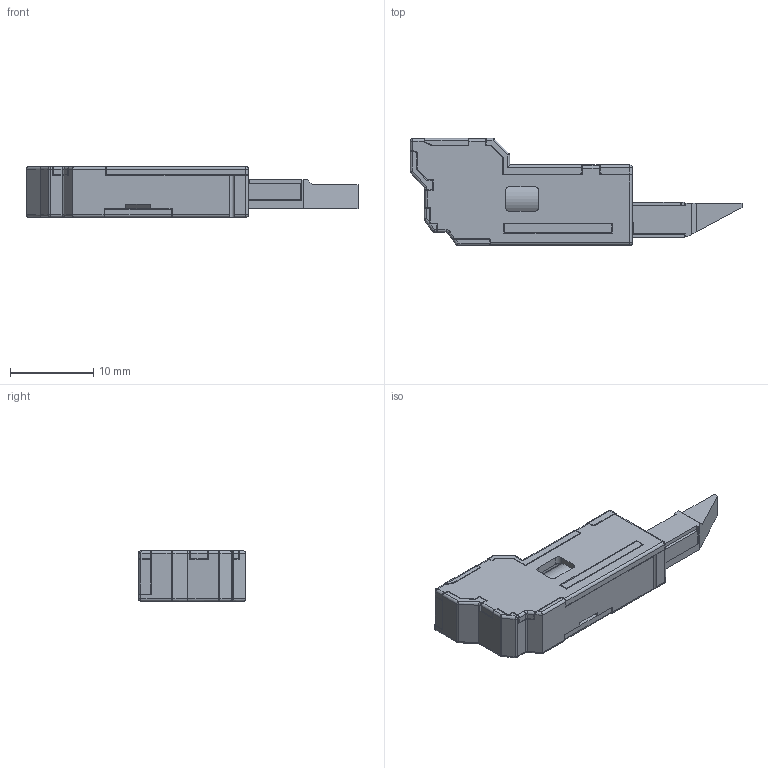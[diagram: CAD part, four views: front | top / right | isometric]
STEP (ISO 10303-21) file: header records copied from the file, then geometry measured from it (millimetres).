
FILE_DESCRIPTION(/* description */ (''),/* implementation_level */ '2;1');
FILE_NAME(/* name */ 'C:\Desktop\Ass. Portaf. Versione LED.stp',/* time_stamp */ '2015-03-20T15:36:48+01:00',/* author */ ('marco'),/* organization */ (''),/* preprocessor_version */ 'ST-DEVELOPER v15.6',/* originating_system */ 'Autodesk Inventor 2015',/* authorisation */ '');
FILE_SCHEMA (('AUTOMOTIVE_DESIGN { 1 0 10303 214 3 1 1 }'));
Length unit declared in the file: millimetre
Products named in the file (13): EF00884-1 (03.07.14) Versione LED; EF00885-1 ( 03.07.14) Versione LED; EF00886+; IS 93 LED FUSE; EF00964+ (prismino); EF00888+; EF00887+; cavo2; fusibile 5x20; HSMx-C190; cavo1; C7 1210; Ass. Portaf. Versione LED
Bounding box: 40 x 12.9 x 6.1 mm (x, y, z)
Volume: 1512.1 mm3; surface area: 3410.4 mm2
Topology: 13 solids, 14 shells, 935 faces, 2559 edges, 1663 vertices
Faces by surface type: plane 665, cylinder 205, bspline 48, sphere 16, torus 1
Full cylindrical faces by diameter (mm): 0.22 x5, 0.25 x3, 0.58 x1, 4.4 x1, 5 x2
Entity records: 29397 total; most frequent: CARTESIAN_POINT 5757, ORIENTED_EDGE 4996, DIRECTION 4610, EDGE_CURVE 2498, LINE 1986, VECTOR 1986, VERTEX_POINT 1632, AXIS2_PLACEMENT_3D 1312
